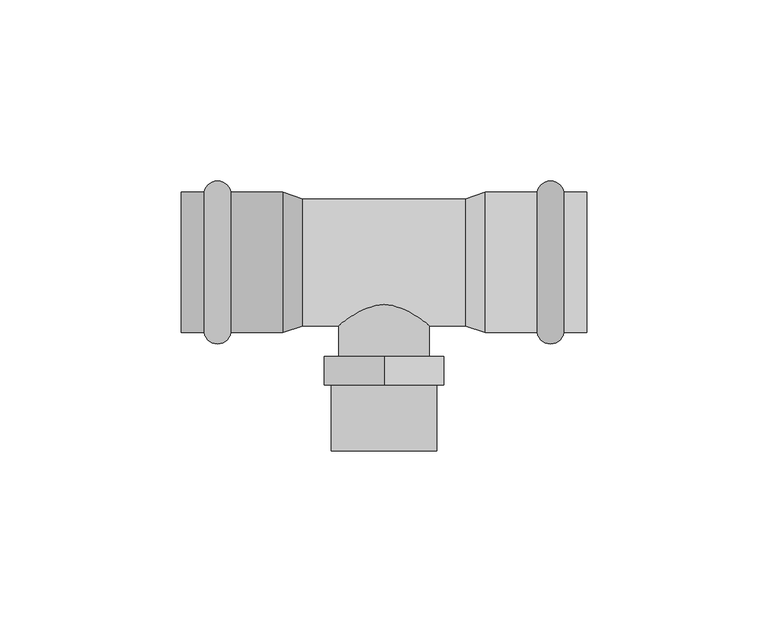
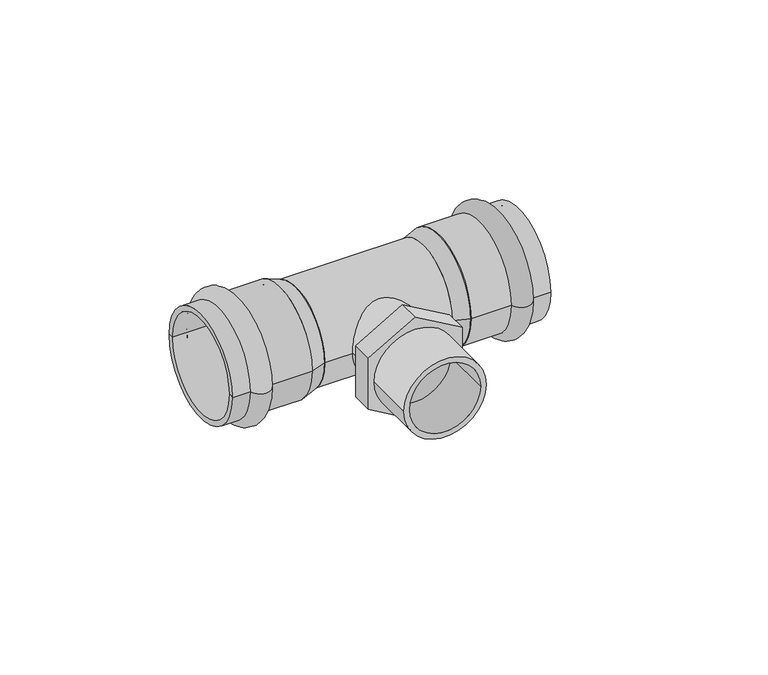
"""IFC4 building model written with IfcOpenShell, lengths in millimetres: pipe fitting geometry, VALTEC_VTi.933.I_Тройник с переходом на наружную  резьбу нержавеющая сталь : VTi.933.I."""

from ifc_helpers import new_model, si_unit, point, frame, origin, origin_2d, place, context, project, spatial, polyline, circle_curve, ellipse_curve, trimmed, segment, composite_curve, outline, extrude, source, transform, mapped, element, save
from ifc_brep_helpers import plane_surface, cylinder_surface, revolved_surface, advanced_brep


def pipe_fitting_e7314a06(model_context):
    return source(origin(), model_context, "Body", "SolidModel", [
        advanced_brep(
        [(49.6432371, 19.4, 0.0), (49.6432371, -19.4, 0.0), (42.2567629, -19.4, 0.0), (42.2567629, 19.4, 0.0), (56.0, 19.4, 0.0), (56.0, -19.4, 0.0), (56.0, 17.5, 0.0), (56.0, -17.5, 0.0), (28.0, 17.5, 0.0), (28.0, -17.5, 0.0), (28.0, 19.4, 0.0), (28.0, -19.4, 0.0)],
        [
            (0, 1, circle_curve(frame((49.6432371, 0.0, 0.0), z_axis=(-1.0, 0.0, 0.0), x_axis=(0.0, -1.0, 0.0)), 19.4)),
            (1, 2, circle_curve(frame((45.95, -18.75, 0.0), z_axis=(0.0, 0.0, -1.0), x_axis=(-1.0, 0.0, 0.0)), 3.75)),
            (2, 3, circle_curve(frame((42.2567629, 0.0, 0.0), z_axis=(1.0, 0.0, 0.0), x_axis=(0.0, -1.0, 0.0)), 19.4)),
            (3, 0, circle_curve(frame((45.95, 18.75, 0.0), z_axis=(0.0, 0.0, -1.0), x_axis=(-1.0, 0.0, 0.0)), 3.75)),
            (1, 0, circle_curve(frame((49.6432371, 0.0, 0.0), z_axis=(-1.0, 0.0, 0.0), x_axis=(0.0, -1.0, 0.0)), 19.4)),
            (3, 2, circle_curve(frame((42.2567629, 0.0, 0.0), z_axis=(1.0, 0.0, 0.0), x_axis=(0.0, -1.0, 0.0)), 19.4)),
            (4, 5, circle_curve(frame((56.0, 0.0, 0.0), z_axis=(-1.0, 0.0, 0.0), x_axis=(0.0, -1.0, 0.0)), 19.4)),
            (5, 1),
            (0, 4),
            (5, 4, circle_curve(frame((56.0, 0.0, 0.0), z_axis=(-1.0, 0.0, 0.0), x_axis=(0.0, -1.0, 0.0)), 19.4)),
            (6, 7, circle_curve(frame((56.0, 0.0, 0.0), z_axis=(-1.0, 0.0, 0.0), x_axis=(0.0, -1.0, 0.0)), 17.5)),
            (7, 5),
            (4, 6),
            (7, 6, circle_curve(frame((56.0, 0.0, 0.0), z_axis=(-1.0, 0.0, 0.0), x_axis=(0.0, -1.0, 0.0)), 17.5)),
            (8, 9, circle_curve(frame((28.0, 0.0, 0.0), z_axis=(-1.0, 0.0, 0.0), x_axis=(0.0, -1.0, 0.0)), 17.5)),
            (9, 7),
            (6, 8),
            (9, 8, circle_curve(frame((28.0, 0.0, 0.0), z_axis=(-1.0, 0.0, 0.0), x_axis=(0.0, -1.0, 0.0)), 17.5)),
            (10, 11, circle_curve(frame((28.0, 0.0, 0.0), z_axis=(-1.0, 0.0, 0.0), x_axis=(0.0, -1.0, 0.0)), 19.4)),
            (11, 9),
            (8, 10),
            (11, 10, circle_curve(frame((28.0, 0.0, 0.0), z_axis=(-1.0, 0.0, 0.0), x_axis=(0.0, -1.0, 0.0)), 19.4)),
            (2, 11),
            (10, 3),
        ],
        [
            revolved_surface(trimmed(ellipse_curve(frame((45.95, -18.75, 0.0), z_axis=(0.0, 0.0, 1.0), x_axis=(-1.0, 0.0, 0.0)), 3.75, 3.75), [point((42.2567629, -19.4, 0.0))], [point((49.6432371, -19.4, 0.0))], True, "CARTESIAN"), (59.5364426, 0.0, 0.0), (1.0, 0.0, 0.0)),
            cylinder_surface(frame((59.5364426, 0.0, 0.0), z_axis=(1.0, 0.0, 0.0), x_axis=(0.0, -1.0, 0.0)), 19.4),
            plane_surface(frame((56.0, 0.0, 0.0), z_axis=(1.0, 0.0, 0.0), x_axis=(0.0, -1.0, 0.0))),
            revolved_surface(polyline([(56.0, -17.5, 0.0), (28.0, -17.5, 0.0)]), (59.5364426, 0.0, 0.0), (1.0, 0.0, 0.0)),
            plane_surface(frame((28.0, 0.0, 0.0), z_axis=(-1.0, 0.0, 0.0), x_axis=(0.0, -1.0, 0.0))),
        ],
        [
            (0, [[1, 2, 3, 4]]),
            (0, [[5, -4, 6, -2]]),
            (1, [[7, 8, -1, 9]]),
            (1, [[10, -9, -5, -8]]),
            (2, [[11, 12, -7, 13]]),
            (2, [[14, -13, -10, -12]]),
            (3, [[15, 16, -11, 17]]),
            (3, [[18, -17, -14, -16]]),
            (4, [[19, 20, -15, 21]]),
            (4, [[22, -21, -18, -20]]),
            (1, [[-3, 23, -19, 24]]),
            (1, [[-6, -24, -22, -23]]),
        ],
    ),
        advanced_brep(
        [(-49.6432371, -19.4, 0.0), (-49.6432371, 19.4, 0.0), (-42.2567629, 19.4, 0.0), (-42.2567629, -19.4, 0.0), (-56.0, -19.4, 0.0), (-56.0, 19.4, 0.0), (-56.0, -17.5, 0.0), (-56.0, 17.5, 0.0), (-28.0, -17.5, 0.0), (-28.0, 17.5, 0.0), (-28.0, -19.4, 0.0), (-28.0, 19.4, 0.0)],
        [
            (0, 1, circle_curve(frame((-49.6432371, 0.0, 0.0), z_axis=(1.0, 0.0, 0.0), x_axis=(0.0, 1.0, 0.0)), 19.4)),
            (1, 2, circle_curve(frame((-45.95, 18.75, 0.0), z_axis=(0.0, 0.0, -1.0), x_axis=(1.0, 0.0, 0.0)), 3.75)),
            (2, 3, circle_curve(frame((-42.2567629, 0.0, 0.0), z_axis=(-1.0, 0.0, 0.0), x_axis=(0.0, 1.0, 0.0)), 19.4)),
            (3, 0, circle_curve(frame((-45.95, -18.75, 0.0), z_axis=(0.0, 0.0, -1.0), x_axis=(1.0, 0.0, 0.0)), 3.75)),
            (1, 0, circle_curve(frame((-49.6432371, 0.0, 0.0), z_axis=(1.0, 0.0, 0.0), x_axis=(0.0, 1.0, 0.0)), 19.4)),
            (3, 2, circle_curve(frame((-42.2567629, 0.0, 0.0), z_axis=(-1.0, 0.0, 0.0), x_axis=(0.0, 1.0, 0.0)), 19.4)),
            (4, 5, circle_curve(frame((-56.0, 0.0, 0.0), z_axis=(1.0, 0.0, 0.0), x_axis=(0.0, 1.0, 0.0)), 19.4)),
            (5, 1),
            (0, 4),
            (5, 4, circle_curve(frame((-56.0, 0.0, 0.0), z_axis=(1.0, 0.0, 0.0), x_axis=(0.0, 1.0, 0.0)), 19.4)),
            (6, 7, circle_curve(frame((-56.0, 0.0, 0.0), z_axis=(1.0, 0.0, 0.0), x_axis=(0.0, 1.0, 0.0)), 17.5)),
            (7, 5),
            (4, 6),
            (7, 6, circle_curve(frame((-56.0, 0.0, 0.0), z_axis=(1.0, 0.0, 0.0), x_axis=(0.0, 1.0, 0.0)), 17.5)),
            (8, 9, circle_curve(frame((-28.0, 0.0, 0.0), z_axis=(1.0, 0.0, 0.0), x_axis=(0.0, 1.0, 0.0)), 17.5)),
            (9, 7),
            (6, 8),
            (9, 8, circle_curve(frame((-28.0, 0.0, 0.0), z_axis=(1.0, 0.0, 0.0), x_axis=(0.0, 1.0, 0.0)), 17.5)),
            (10, 11, circle_curve(frame((-28.0, 0.0, 0.0), z_axis=(1.0, 0.0, 0.0), x_axis=(0.0, 1.0, 0.0)), 19.4)),
            (11, 9),
            (8, 10),
            (11, 10, circle_curve(frame((-28.0, 0.0, 0.0), z_axis=(1.0, 0.0, 0.0), x_axis=(0.0, 1.0, 0.0)), 19.4)),
            (2, 11),
            (10, 3),
        ],
        [
            revolved_surface(trimmed(ellipse_curve(frame((-45.95, 18.75, 0.0), z_axis=(0.0, 0.0, 1.0), x_axis=(1.0, 0.0, 0.0)), 3.75, 3.75), [point((-42.2567629, 19.4, 0.0))], [point((-49.6432371, 19.4, 0.0))], True, "CARTESIAN"), (-59.5364426, 0.0, 0.0), (-1.0, 0.0, 0.0)),
            cylinder_surface(frame((-59.5364426, 0.0, 0.0), z_axis=(-1.0, 0.0, 0.0), x_axis=(0.0, 1.0, 0.0)), 19.4),
            plane_surface(frame((-56.0, 0.0, 0.0), z_axis=(-1.0, 0.0, 0.0), x_axis=(0.0, 1.0, 0.0))),
            revolved_surface(polyline([(-56.0, 17.5, 0.0), (-28.0, 17.5, 0.0)]), (-59.5364426, 0.0, 0.0), (-1.0, 0.0, 0.0)),
            plane_surface(frame((-28.0, 0.0, 0.0), z_axis=(1.0, 0.0, 0.0), x_axis=(0.0, 1.0, 0.0))),
        ],
        [
            (0, [[1, 2, 3, 4]]),
            (0, [[5, -4, 6, -2]]),
            (1, [[7, 8, -1, 9]]),
            (1, [[10, -9, -5, -8]]),
            (2, [[11, 12, -7, 13]]),
            (2, [[14, -13, -10, -12]]),
            (3, [[15, 16, -11, 17]]),
            (3, [[18, -17, -14, -16]]),
            (4, [[19, 20, -15, 21]]),
            (4, [[22, -21, -18, -20]]),
            (1, [[-3, 23, -19, 24]]),
            (1, [[-6, -24, -22, -23]]),
        ],
    ),
        extrude(outline(composite_curve([segment(trimmed(circle_curve(origin_2d(), 14.5), [point((0.0, -14.5))], [point((0.0, 14.5))], False, "CARTESIAN"), True, "CONTINUOUS"), segment(trimmed(circle_curve(origin_2d(), 14.5), [point((0.0, 14.5))], [point((0.0, -14.5))], False, "CARTESIAN"), True, "CONTINUOUS")], self_intersect=False), holes=[composite_curve([segment(trimmed(circle_curve(origin_2d(), 12.5), [point((0.0, -12.5))], [point((0.0, 12.5))], True, "CARTESIAN"), True, "CONTINUOUS"), segment(trimmed(circle_curve(origin_2d(), 12.5), [point((0.0, 12.5))], [point((0.0, -12.5))], True, "CARTESIAN"), True, "CONTINUOUS")], self_intersect=False)]), frame((0.0, -52.0, 0.0), z_axis=(0.0, 1.0, 0.0), x_axis=(0.0, 0.0, 1.0)), (0.0, 0.0, 1.0), 18.2),
        extrude(outline(polyline([(19.0525589, 0.0), (9.5262794, -16.5), (-9.5262794, -16.5), (-19.0525589, 0.0), (-9.5262794, 16.5), (9.5262794, 16.5), (19.0525589, 0.0)]), holes=[composite_curve([segment(trimmed(circle_curve(origin_2d(), 12.5), [point((0.0, -12.5))], [point((0.0, 12.5))], True, "CARTESIAN"), True, "CONTINUOUS"), segment(trimmed(circle_curve(origin_2d(), 12.5), [point((0.0, 12.5))], [point((0.0, -12.5))], True, "CARTESIAN"), True, "CONTINUOUS")], self_intersect=False)]), frame((0.0, -33.8, 0.0), z_axis=(0.0, 1.0, 0.0), x_axis=(0.0, 0.0, 1.0)), (0.0, 0.0, 1.0), 7.8),
        extrude(outline(composite_curve([segment(trimmed(circle_curve(origin_2d(), 12.5), [point((0.0, -12.5))], [point((0.0, 12.5))], False, "CARTESIAN"), True, "CONTINUOUS"), segment(trimmed(circle_curve(origin_2d(), 12.5), [point((0.0, 12.5))], [point((0.0, -12.5))], False, "CARTESIAN"), True, "CONTINUOUS")], self_intersect=False)), frame((0.0, -26.0, 0.0), z_axis=(0.0, 1.0, 0.0), x_axis=(0.0, 0.0, 1.0)), (0.0, 0.0, 1.0), 26.0),
        extrude(outline(composite_curve([segment(trimmed(circle_curve(origin_2d(), 17.5), [point((-17.5, 0.0))], [point((17.5, 0.0))], False, "CARTESIAN"), True, "CONTINUOUS"), segment(trimmed(circle_curve(origin_2d(), 17.5), [point((17.5, 0.0))], [point((-17.5, 0.0))], False, "CARTESIAN"), True, "CONTINUOUS")], self_intersect=False)), frame((-22.4, 0.0, 0.0), z_axis=(1.0, 0.0, 0.0), x_axis=(0.0, 1.0, 0.0)), (0.0, 0.0, 1.0), 44.8),
        advanced_brep(
        [(28.0, -19.4, 0.0), (28.0, 19.4, 0.0), (22.4, -17.5, 0.0), (22.4, 17.5, 0.0)],
        [
            (0, 1, circle_curve(frame((28.0, 0.0, 0.0), z_axis=(1.0, 0.0, 0.0), x_axis=(0.0, -1.0, 0.0)), 19.4)),
            (1, 0, circle_curve(frame((28.0, 0.0, 0.0), z_axis=(1.0, 0.0, 0.0), x_axis=(0.0, 1.0, 0.0)), 19.4)),
            (2, 3, circle_curve(frame((22.4, 0.0, 0.0), z_axis=(-1.0, 0.0, 0.0), x_axis=(0.0, 1.0, 0.0)), 17.5)),
            (3, 2, circle_curve(frame((22.4, 0.0, 0.0), z_axis=(-1.0, 0.0, 0.0), x_axis=(0.0, -1.0, 0.0)), 17.5)),
            (3, 1),
            (0, 2),
        ],
        [
            plane_surface(frame((28.0, 0.0, 0.0), z_axis=(1.0, 0.0, 0.0), x_axis=(0.0, 0.0, 1.0))),
            plane_surface(frame((22.4, 0.0, 0.0), z_axis=(-1.0, 0.0, 0.0), x_axis=(0.0, 0.0, 1.0))),
            revolved_surface(polyline([(22.4, 17.500000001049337, 0.0), (28.0, 19.4, 0.0)]), (-29.1789474, 0.0, 0.0), (1.0, 0.0, 0.0)),
            revolved_surface(polyline([(22.4, -17.500000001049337, 0.0), (28.0, -19.4, 0.0)]), (-29.1789474, 0.0, 0.0), (1.0, 0.0, 0.0)),
        ],
        [
            (0, [[1, 2]]),
            (1, [[3, 4]]),
            (2, [[-4, 5, -1, 6]]),
            (3, [[-3, -6, -2, -5]]),
        ],
    ),
        advanced_brep(
        [(-28.0, -19.4, 0.0), (-28.0, 19.4, 0.0), (-22.4, -17.5, 0.0), (-22.4, 17.5, 0.0)],
        [
            (0, 1, circle_curve(frame((-28.0, 0.0, 0.0), z_axis=(-1.0, 0.0, 0.0), x_axis=(0.0, -1.0, 0.0)), 19.4)),
            (1, 0, circle_curve(frame((-28.0, 0.0, 0.0), z_axis=(-1.0, 0.0, 0.0), x_axis=(0.0, 1.0, 0.0)), 19.4)),
            (2, 3, circle_curve(frame((-22.4, 0.0, 0.0), z_axis=(1.0, 0.0, 0.0), x_axis=(0.0, 1.0, 0.0)), 17.5)),
            (3, 2, circle_curve(frame((-22.4, 0.0, 0.0), z_axis=(1.0, 0.0, 0.0), x_axis=(0.0, -1.0, 0.0)), 17.5)),
            (2, 0),
            (1, 3),
        ],
        [
            plane_surface(frame((-28.0, 0.0, 0.0), z_axis=(-1.0, 0.0, 0.0), x_axis=(0.0, 0.0, -1.0))),
            plane_surface(frame((-22.4, 0.0, 0.0), z_axis=(1.0, 0.0, 0.0), x_axis=(0.0, 0.0, -1.0))),
            revolved_surface(polyline([(-22.4, -17.500000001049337, 0.0), (-28.0, -19.4, 0.0)]), (29.1789474, 0.0, 0.0), (-1.0, 0.0, 0.0)),
            revolved_surface(polyline([(-22.4, 17.500000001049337, 0.0), (-28.0, 19.4, 0.0)]), (29.1789474, 0.0, 0.0), (-1.0, 0.0, 0.0)),
        ],
        [
            (0, [[1, 2]]),
            (1, [[3, 4]]),
            (2, [[-3, 5, -2, 6]]),
            (3, [[-4, -6, -1, -5]]),
        ],
    ),
    ])


if __name__ == "__main__":
    model = new_model("IFC4")
    model_context = context("Model", 3, world=origin())
    ifc_project = project(units=[si_unit("LENGTHUNIT", "METRE", prefix="MILLI")], contexts=[model_context])
    site = spatial("IfcSite", under=ifc_project)
    building = spatial("IfcBuilding", under=site)
    placement = place(None, origin())
    pipe_fitting_shape = pipe_fitting_e7314a06(model_context)
    element("IfcPipeFitting", 1, ObjectType="VALTEC_VTi.933.I_Тройник с переходом на наружную  резьбу нержавеющая сталь : VTi.933.I", at=placement, inside=building, context=model_context, shape_type="MappedRepresentation", body=[
        mapped(pipe_fitting_shape, transform((0.0, 0.0, 0.0), x_axis=(1.0, 0.0, 0.0), y_axis=(0.0, 1.0, 0.0), z_axis=(0.0, 0.0, 1.0))),
    ])
    save(model, "model.ifc")
